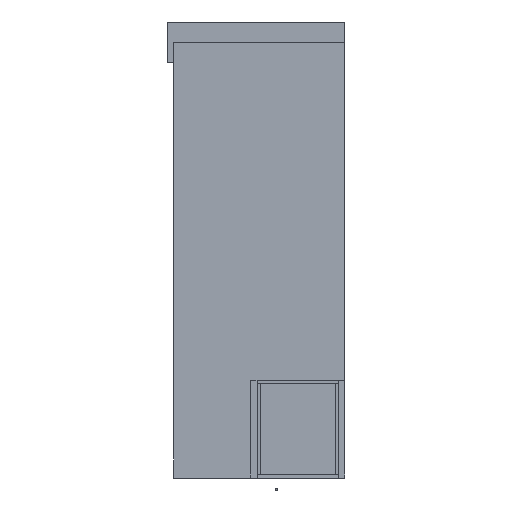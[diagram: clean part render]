
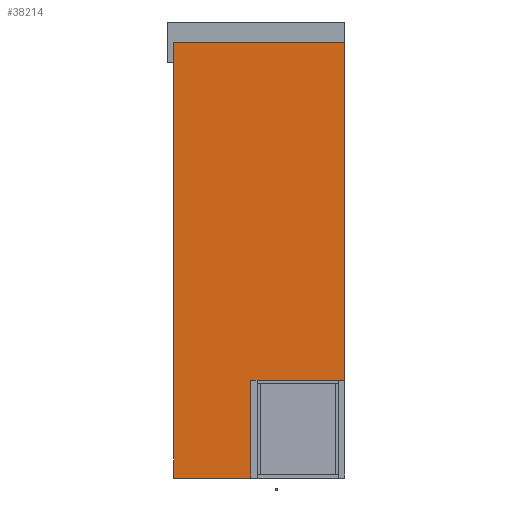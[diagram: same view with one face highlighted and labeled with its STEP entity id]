
A CAD part, left-side view. The second image highlights one B-rep face of the part: STEP entity #38214.
In plain terms, the highlighted planar face has unit normal (-1, 0, 0).
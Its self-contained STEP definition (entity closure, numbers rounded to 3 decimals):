
#6884=FACE_OUTER_BOUND('',#9056,.T.);
#9056=EDGE_LOOP('',(#28049,#28050,#28051,#28052));
#11545=LINE('',#57813,#15175);
#11549=LINE('',#57821,#15179);
#11552=LINE('',#57827,#15182);
#11555=LINE('',#57832,#15185);
#15175=VECTOR('',#46426,0.394);
#15179=VECTOR('',#46432,0.394);
#15182=VECTOR('',#46437,0.394);
#15185=VECTOR('',#46442,0.394);
#18633=VERTEX_POINT('',#57811);
#18634=VERTEX_POINT('',#57812);
#18637=VERTEX_POINT('',#57820);
#18639=VERTEX_POINT('',#57826);
#22157=EDGE_CURVE('',#18633,#18634,#11545,.T.);
#22161=EDGE_CURVE('',#18637,#18633,#11549,.T.);
#22164=EDGE_CURVE('',#18639,#18637,#11552,.T.);
#22167=EDGE_CURVE('',#18634,#18639,#11555,.T.);
#28049=ORIENTED_EDGE('',*,*,#22167,.F.);
#28050=ORIENTED_EDGE('',*,*,#22157,.F.);
#28051=ORIENTED_EDGE('',*,*,#22161,.F.);
#28052=ORIENTED_EDGE('',*,*,#22164,.F.);
#36676=PLANE('',#41458);
#38214=ADVANCED_FACE('',(#6884),#36676,.F.);
#41458=AXIS2_PLACEMENT_3D('',#57835,#46446,#46447);
#46426=DIRECTION('',(0.,0.,-1.));
#46432=DIRECTION('',(0.,-1.,0.));
#46437=DIRECTION('',(0.,0.,1.));
#46442=DIRECTION('',(0.,1.,0.));
#46446=DIRECTION('center_axis',(1.,0.,0.));
#46447=DIRECTION('ref_axis',(0.,0.,-1.));
#57811=CARTESIAN_POINT('',(0.,0.,0.));
#57812=CARTESIAN_POINT('',(0.,0.,-107.));
#57813=CARTESIAN_POINT('',(0.,0.,0.));
#57820=CARTESIAN_POINT('',(0.,42.,0.));
#57821=CARTESIAN_POINT('',(0.,42.,0.));
#57826=CARTESIAN_POINT('',(0.,42.,-107.));
#57827=CARTESIAN_POINT('',(0.,42.,-107.));
#57832=CARTESIAN_POINT('',(0.,0.,-107.));
#57835=CARTESIAN_POINT('Origin',(0.,21.,-53.5));
